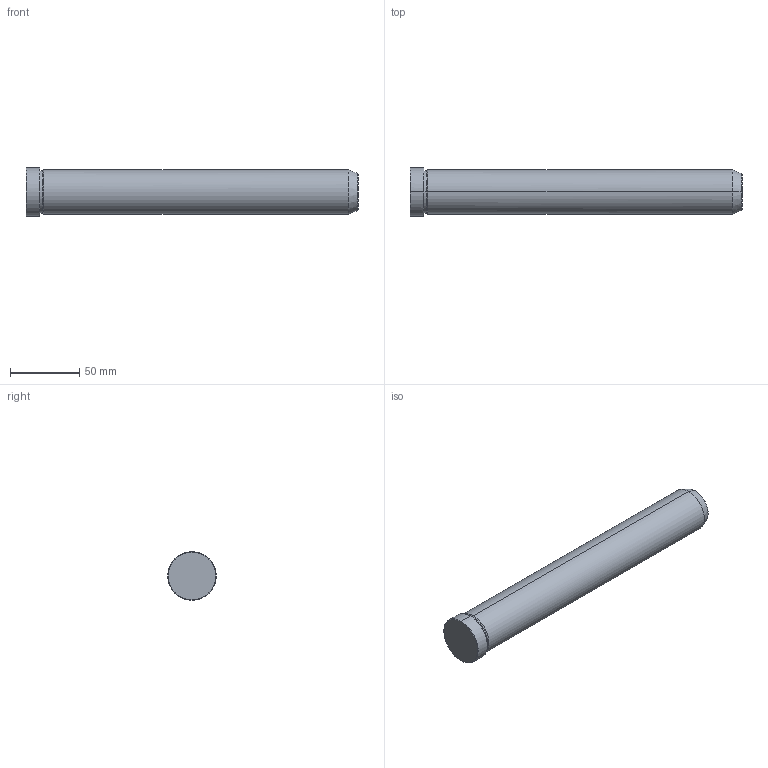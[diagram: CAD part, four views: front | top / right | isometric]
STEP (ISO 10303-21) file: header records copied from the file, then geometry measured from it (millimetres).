
FILE_DESCRIPTION(('CATIA V5 STEP Exchange'),'2;1');
FILE_NAME('C:\Users\Utente\Desktop\IO LAVORO\3D X SITO CF\X SITO\PLASTICA\549\549-32X240.stp','2021-12-18T08:04:34+00:00',('none'),('none'),'CATIA Version 5 Release 20 GA (IN-10)','CATIA V5 STEP AP203','none');
FILE_SCHEMA(('CONFIG_CONTROL_DESIGN'));
Length unit declared in the file: millimetre
Products named in the file (1): 549-32X240
Bounding box: 240 x 35 x 35 mm (x, y, z)
Volume: 193524.6 mm3; surface area: 25877.5 mm2
Topology: 1 solids, 1 shells, 19 faces, 56 edges, 40 vertices
Faces by surface type: cone 8, cylinder 6, plane 3, torus 2
Entity records: 736 total; most frequent: CARTESIAN_POINT 192, ORIENTED_EDGE 112, DIRECTION 86, EDGE_CURVE 56, AXIS2_PLACEMENT_3D 54, VERTEX_POINT 40, CIRCLE 34, EDGE_LOOP 20
